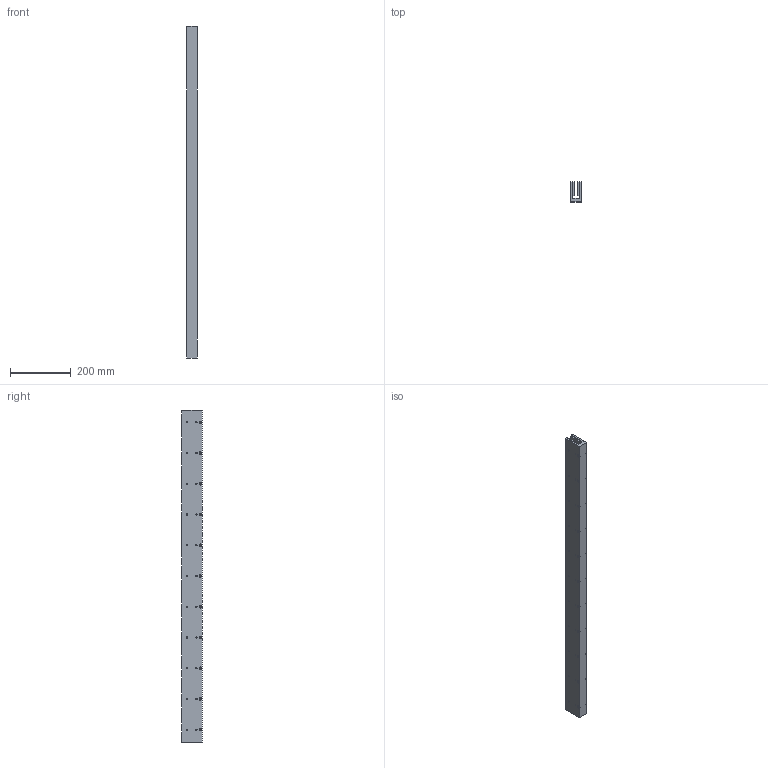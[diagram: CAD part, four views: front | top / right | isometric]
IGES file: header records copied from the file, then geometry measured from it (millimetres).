
Global section: file name: No Iges File Name specified; native system: Autodesk Inventor 2009; preprocessor: AutoDesk Inventor Iges Exporter R2009; author: je17857; date: 20091116.111606; units: inch
Bounding box: 34.29 x 67.31 x 1097.28 mm (x, y, z)
Volume: 1640311.6 mm3; surface area: 413215.4 mm2
Topology: 1 solids, 1 shells, 562 faces, 1350 edges, 900 vertices
Faces by surface type: plane 386, bspline 176
